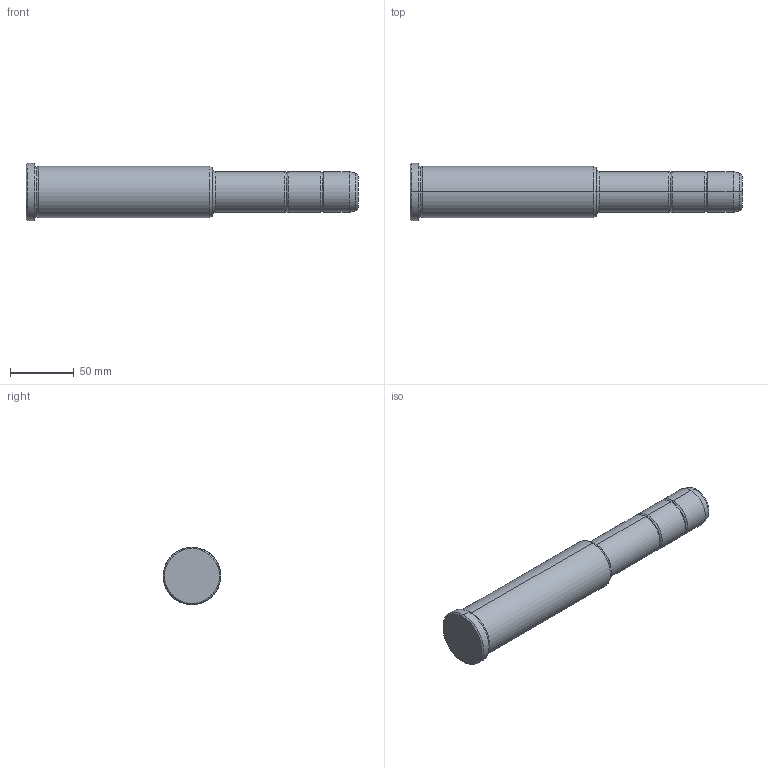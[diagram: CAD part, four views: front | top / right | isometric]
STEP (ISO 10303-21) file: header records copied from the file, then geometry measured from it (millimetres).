
FILE_DESCRIPTION(('CATIA V5 STEP Exchange'),'2;1');
FILE_NAME('C:\Users\Utente\Desktop\IO LAVORO\3D X SITO CF\X SITO\PLASTICA\351\351-32X146X260.stp','2021-09-15T12:17:47+00:00',('none'),('none'),'CATIA Version 5 Release 20 GA (IN-10)','CATIA V5 STEP AP203','none');
FILE_SCHEMA(('CONFIG_CONTROL_DESIGN'));
Length unit declared in the file: millimetre
Products named in the file (1): 351-32X146X260
Bounding box: 260 x 45 x 45 mm (x, y, z)
Volume: 276284.6 mm3; surface area: 32668.9 mm2
Topology: 1 solids, 1 shells, 36 faces, 102 edges, 70 vertices
Faces by surface type: torus 16, cylinder 10, cone 6, plane 4
Entity records: 1292 total; most frequent: CARTESIAN_POINT 321, ORIENTED_EDGE 204, DIRECTION 166, AXIS2_PLACEMENT_3D 115, EDGE_CURVE 102, CIRCLE 78, VERTEX_POINT 70, EDGE_LOOP 38
